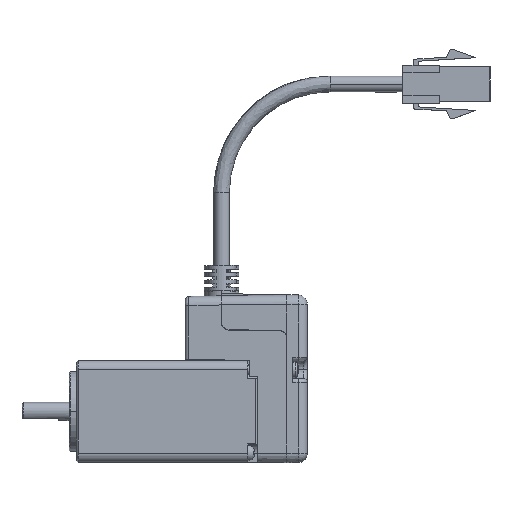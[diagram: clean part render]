
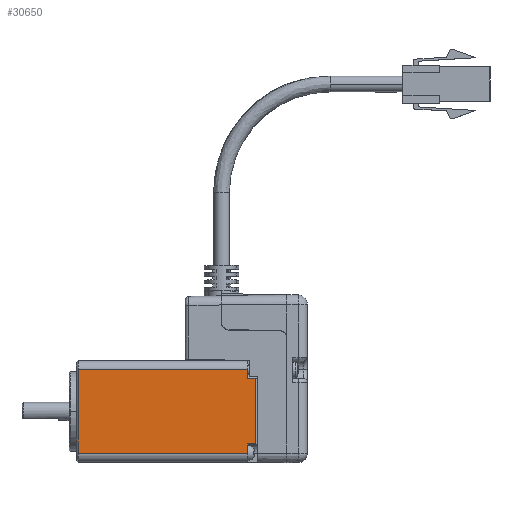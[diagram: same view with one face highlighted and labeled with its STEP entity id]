
A CAD part, top view. The second image highlights one B-rep face of the part: STEP entity #30650.
In plain terms, the highlighted planar face has unit normal (0, 0, 1) as drawn and (-1, 0, 0) by its records, which use the part's own axes.
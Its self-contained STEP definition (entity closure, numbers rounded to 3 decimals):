
#786 = DIRECTION ( 'NONE',  ( 0., 0., -1. ) ) ;
#1331 = EDGE_LOOP ( 'NONE', ( #24910, #24195, #6426, #14212, #20789, #20482, #24703, #17375 ) ) ;
#1867 = CARTESIAN_POINT ( 'NONE',  ( -4.249, 82.849, 0.5 ) ) ;
#2673 = VERTEX_POINT ( 'NONE', #15437 ) ;
#2977 = LINE ( 'NONE', #8552, #22358 ) ;
#3573 = EDGE_CURVE ( 'NONE', #32796, #15668, #2977, .T. ) ;
#3600 = VECTOR ( 'NONE', #11633, 1000. ) ;
#4146 = LINE ( 'NONE', #1867, #16798 ) ;
#4395 = LINE ( 'NONE', #26719, #3600 ) ;
#5941 = EDGE_CURVE ( 'NONE', #28233, #27856, #4395, .T. ) ;
#6021 = DIRECTION ( 'NONE',  ( 0., 0., -1. ) ) ;
#6345 = DIRECTION ( 'NONE',  ( 0., -1., 0. ) ) ;
#6426 = ORIENTED_EDGE ( 'NONE', *, *, #3573, .F. ) ;
#6622 = DIRECTION ( 'NONE',  ( 0., 0., 1. ) ) ;
#7246 = VECTOR ( 'NONE', #14995, 1000. ) ;
#8552 = CARTESIAN_POINT ( 'NONE',  ( -4.249, 62.349, 7. ) ) ;
#9575 = EDGE_CURVE ( 'NONE', #2673, #15668, #4146, .T. ) ;
#9839 = CARTESIAN_POINT ( 'NONE',  ( -4.249, 82.849, 2.8 ) ) ;
#9950 = CARTESIAN_POINT ( 'NONE',  ( -4.249, 59.849, 2.8 ) ) ;
#10317 = LINE ( 'NONE', #18037, #29714 ) ;
#11040 = VECTOR ( 'NONE', #6345, 1000. ) ;
#11421 = LINE ( 'NONE', #9839, #17376 ) ;
#11633 = DIRECTION ( 'NONE',  ( 0., 0., 1. ) ) ;
#11838 = LINE ( 'NONE', #16520, #11040 ) ;
#12313 = CARTESIAN_POINT ( 'NONE',  ( -4.249, 62.349, 0.5 ) ) ;
#12395 = DIRECTION ( 'NONE',  ( 0., -1., 0. ) ) ;
#12980 = FACE_OUTER_BOUND ( 'NONE', #1331, .T. ) ;
#13305 = CARTESIAN_POINT ( 'NONE',  ( -4.249, 59.849, 49.5 ) ) ;
#13956 = LINE ( 'NONE', #20114, #7246 ) ;
#14137 = CARTESIAN_POINT ( 'NONE',  ( -4.249, 82.849, 0.5 ) ) ;
#14212 = ORIENTED_EDGE ( 'NONE', *, *, #19345, .T. ) ;
#14995 = DIRECTION ( 'NONE',  ( 0., 0., -1. ) ) ;
#15437 = CARTESIAN_POINT ( 'NONE',  ( -4.249, 80.349, 0.5 ) ) ;
#15668 = VERTEX_POINT ( 'NONE', #12313 ) ;
#16520 = CARTESIAN_POINT ( 'NONE',  ( -4.249, 82.849, 2.8 ) ) ;
#16798 = VECTOR ( 'NONE', #17327, 1000. ) ;
#17027 = EDGE_CURVE ( 'NONE', #29662, #18782, #13956, .T. ) ;
#17327 = DIRECTION ( 'NONE',  ( 0., -1., 0. ) ) ;
#17375 = ORIENTED_EDGE ( 'NONE', *, *, #30230, .T. ) ;
#17376 = VECTOR ( 'NONE', #12395, 1000. ) ;
#18037 = CARTESIAN_POINT ( 'NONE',  ( -4.249, 82.849, 49.5 ) ) ;
#18782 = VERTEX_POINT ( 'NONE', #27080 ) ;
#19007 = LINE ( 'NONE', #31026, #31666 ) ;
#19032 = AXIS2_PLACEMENT_3D ( 'NONE', #14137, #21802, #6622 ) ;
#19241 = PLANE ( 'NONE',  #19032 ) ;
#19345 = EDGE_CURVE ( 'NONE', #32796, #28233, #11838, .T. ) ;
#20114 = CARTESIAN_POINT ( 'NONE',  ( -4.249, 82.849, 0.5 ) ) ;
#20482 = ORIENTED_EDGE ( 'NONE', *, *, #23534, .T. ) ;
#20607 = DIRECTION ( 'NONE',  ( 0., 1., 0. ) ) ;
#20789 = ORIENTED_EDGE ( 'NONE', *, *, #5941, .T. ) ;
#21802 = DIRECTION ( 'NONE',  ( -1., 0., 0. ) ) ;
#22358 = VECTOR ( 'NONE', #6021, 1000. ) ;
#22649 = CARTESIAN_POINT ( 'NONE',  ( -4.249, 82.849, 49.5 ) ) ;
#23534 = EDGE_CURVE ( 'NONE', #27856, #29662, #10317, .T. ) ;
#24195 = ORIENTED_EDGE ( 'NONE', *, *, #9575, .T. ) ;
#24205 = EDGE_CURVE ( 'NONE', #32632, #2673, #19007, .T. ) ;
#24703 = ORIENTED_EDGE ( 'NONE', *, *, #17027, .T. ) ;
#24910 = ORIENTED_EDGE ( 'NONE', *, *, #24205, .T. ) ;
#26719 = CARTESIAN_POINT ( 'NONE',  ( -4.249, 59.849, 0.5 ) ) ;
#27080 = CARTESIAN_POINT ( 'NONE',  ( -4.249, 82.849, 2.8 ) ) ;
#27856 = VERTEX_POINT ( 'NONE', #13305 ) ;
#28233 = VERTEX_POINT ( 'NONE', #9950 ) ;
#28606 = CARTESIAN_POINT ( 'NONE',  ( -4.249, 62.349, 2.8 ) ) ;
#29662 = VERTEX_POINT ( 'NONE', #22649 ) ;
#29714 = VECTOR ( 'NONE', #20607, 1000. ) ;
#30230 = EDGE_CURVE ( 'NONE', #18782, #32632, #11421, .T. ) ;
#30612 = CARTESIAN_POINT ( 'NONE',  ( -4.249, 80.349, 2.8 ) ) ;
#30650 = ADVANCED_FACE ( 'NONE', ( #12980 ), #19241, .T. ) ;
#31026 = CARTESIAN_POINT ( 'NONE',  ( -4.249, 80.349, 7. ) ) ;
#31666 = VECTOR ( 'NONE', #786, 1000. ) ;
#32632 = VERTEX_POINT ( 'NONE', #30612 ) ;
#32796 = VERTEX_POINT ( 'NONE', #28606 ) ;
